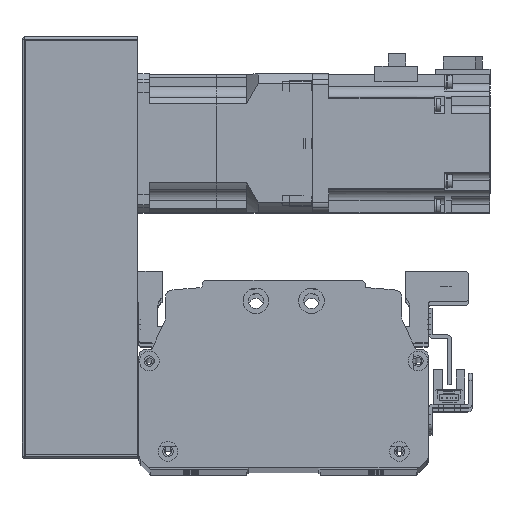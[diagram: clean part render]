
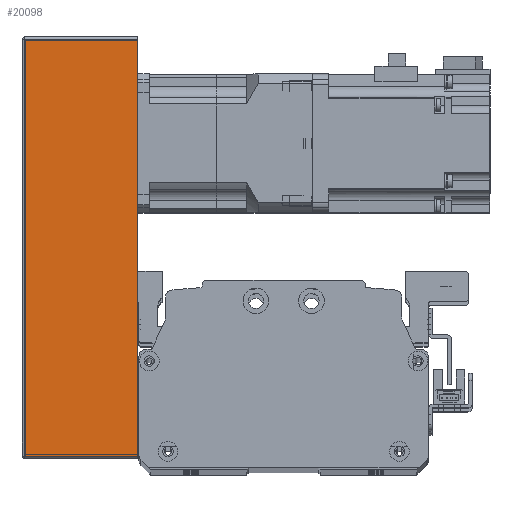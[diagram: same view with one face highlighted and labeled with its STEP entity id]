
A CAD part, top view. The second image highlights one B-rep face of the part: STEP entity #20098.
In plain terms, the highlighted planar face has unit normal (0, 0, 1) as drawn and (0, -1, 0) by its records, which use the part's own axes.
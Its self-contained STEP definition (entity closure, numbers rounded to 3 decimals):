
#604=PLANE('',#22102);
#1823=LINE('',#33200,#3447);
#1832=LINE('',#33239,#3456);
#1835=LINE('',#33249,#3459);
#1836=LINE('',#33251,#3460);
#3447=VECTOR('',#26858,10.);
#3456=VECTOR('',#26907,10.);
#3459=VECTOR('',#26924,10.);
#3460=VECTOR('',#26927,10.);
#5876=FACE_OUTER_BOUND('',#7368,.T.);
#7368=EDGE_LOOP('',(#17301,#17302,#17303,#17304));
#10287=VERTEX_POINT('',#33197);
#10288=VERTEX_POINT('',#33199);
#10297=VERTEX_POINT('',#33236);
#10298=VERTEX_POINT('',#33238);
#12755=EDGE_CURVE('',#10287,#10288,#1823,.T.);
#12775=EDGE_CURVE('',#10297,#10298,#1832,.T.);
#12781=EDGE_CURVE('',#10298,#10287,#1835,.T.);
#12782=EDGE_CURVE('',#10288,#10297,#1836,.T.);
#17301=ORIENTED_EDGE('',*,*,#12775,.F.);
#17302=ORIENTED_EDGE('',*,*,#12782,.F.);
#17303=ORIENTED_EDGE('',*,*,#12755,.F.);
#17304=ORIENTED_EDGE('',*,*,#12781,.F.);
#20098=ADVANCED_FACE('',(#5876),#604,.T.);
#22102=AXIS2_PLACEMENT_3D('',#33250,#26925,#26926);
#26858=DIRECTION('',(1.,0.,0.));
#26907=DIRECTION('',(-1.,0.,0.));
#26924=DIRECTION('',(0.,0.,1.));
#26925=DIRECTION('center_axis',(0.,-1.,0.));
#26926=DIRECTION('ref_axis',(1.,0.,0.));
#26927=DIRECTION('',(0.,0.,-1.));
#33197=CARTESIAN_POINT('',(-90.,-38.,25.));
#33199=CARTESIAN_POINT('',(90.,-38.,25.));
#33200=CARTESIAN_POINT('',(91.,-38.,25.));
#33236=CARTESIAN_POINT('',(90.,-38.,-24.));
#33238=CARTESIAN_POINT('',(-90.,-38.,-24.));
#33239=CARTESIAN_POINT('',(-45.5,-38.,-24.));
#33249=CARTESIAN_POINT('',(-90.,-38.,0.));
#33250=CARTESIAN_POINT('Origin',(-91.,-38.,0.));
#33251=CARTESIAN_POINT('',(90.,-38.,0.));
